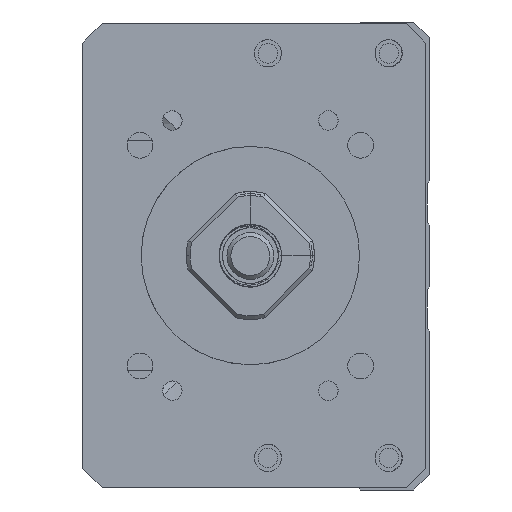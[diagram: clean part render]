
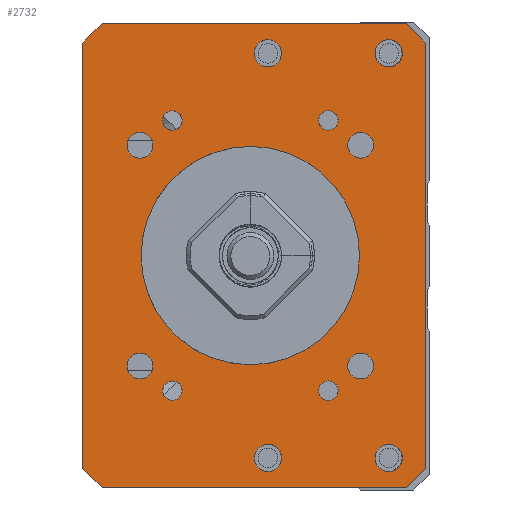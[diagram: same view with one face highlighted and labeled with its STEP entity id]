
A CAD part, left-side view. The second image highlights one B-rep face of the part: STEP entity #2732.
In plain terms, the highlighted planar face has unit normal (-1, 0, 0).
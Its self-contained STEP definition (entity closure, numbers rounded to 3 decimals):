
#1056=LINE('',#14754,#1886);
#1058=LINE('',#14778,#1888);
#1059=LINE('',#14780,#1889);
#1060=LINE('',#14782,#1890);
#1061=LINE('',#14784,#1891);
#1062=LINE('',#14786,#1892);
#1063=LINE('',#14788,#1893);
#1064=LINE('',#14790,#1894);
#1886=VECTOR('',#11793,1.);
#1888=VECTOR('',#11817,1.);
#1889=VECTOR('',#11818,1.);
#1890=VECTOR('',#11819,1.);
#1891=VECTOR('',#11820,1.);
#1892=VECTOR('',#11821,1.);
#1893=VECTOR('',#11822,1.);
#1894=VECTOR('',#11823,1.);
#2732=ADVANCED_FACE('',(#3752,#3753,#3754,#3755,#3756,#3757,#3758,#3759,
#3760,#3761,#3762,#3763,#3764,#3765),#3368,.F.);
#3368=PLANE('',#10748);
#3752=FACE_BOUND('',#4218,.T.);
#3753=FACE_BOUND('',#4219,.T.);
#3754=FACE_BOUND('',#4220,.T.);
#3755=FACE_BOUND('',#4221,.T.);
#3756=FACE_BOUND('',#4222,.T.);
#3757=FACE_BOUND('',#4223,.T.);
#3758=FACE_BOUND('',#4224,.T.);
#3759=FACE_BOUND('',#4225,.T.);
#3760=FACE_BOUND('',#4226,.T.);
#3761=FACE_BOUND('',#4227,.T.);
#3762=FACE_BOUND('',#4228,.T.);
#3763=FACE_BOUND('',#4229,.T.);
#3764=FACE_BOUND('',#4230,.T.);
#3765=FACE_BOUND('',#4231,.T.);
#4218=EDGE_LOOP('',(#5139));
#4219=EDGE_LOOP('',(#5140));
#4220=EDGE_LOOP('',(#5141));
#4221=EDGE_LOOP('',(#5142));
#4222=EDGE_LOOP('',(#5143));
#4223=EDGE_LOOP('',(#5144));
#4224=EDGE_LOOP('',(#5145));
#4225=EDGE_LOOP('',(#5146));
#4226=EDGE_LOOP('',(#5147));
#4227=EDGE_LOOP('',(#5148,#5149,#5150,#5151,#5152,#5153,#5154,#5155));
#4228=EDGE_LOOP('',(#5156));
#4229=EDGE_LOOP('',(#5157));
#4230=EDGE_LOOP('',(#5158));
#4231=EDGE_LOOP('',(#5159));
#5139=ORIENTED_EDGE('',*,*,#8958,.F.);
#5140=ORIENTED_EDGE('',*,*,#8959,.F.);
#5141=ORIENTED_EDGE('',*,*,#8960,.F.);
#5142=ORIENTED_EDGE('',*,*,#8961,.F.);
#5143=ORIENTED_EDGE('',*,*,#8962,.F.);
#5144=ORIENTED_EDGE('',*,*,#8963,.T.);
#5145=ORIENTED_EDGE('',*,*,#8964,.F.);
#5146=ORIENTED_EDGE('',*,*,#8965,.F.);
#5147=ORIENTED_EDGE('',*,*,#8966,.F.);
#5148=ORIENTED_EDGE('',*,*,#8955,.T.);
#5149=ORIENTED_EDGE('',*,*,#8967,.T.);
#5150=ORIENTED_EDGE('',*,*,#8968,.F.);
#5151=ORIENTED_EDGE('',*,*,#8969,.T.);
#5152=ORIENTED_EDGE('',*,*,#8970,.F.);
#5153=ORIENTED_EDGE('',*,*,#8971,.T.);
#5154=ORIENTED_EDGE('',*,*,#8972,.T.);
#5155=ORIENTED_EDGE('',*,*,#8973,.T.);
#5156=ORIENTED_EDGE('',*,*,#8974,.F.);
#5157=ORIENTED_EDGE('',*,*,#8975,.F.);
#5158=ORIENTED_EDGE('',*,*,#8976,.F.);
#5159=ORIENTED_EDGE('',*,*,#8935,.F.);
#7935=VERTEX_POINT('',#14693);
#7955=VERTEX_POINT('',#14753);
#7956=VERTEX_POINT('',#14755);
#7958=VERTEX_POINT('',#14761);
#7959=VERTEX_POINT('',#14763);
#7960=VERTEX_POINT('',#14765);
#7961=VERTEX_POINT('',#14767);
#7962=VERTEX_POINT('',#14769);
#7963=VERTEX_POINT('',#14771);
#7964=VERTEX_POINT('',#14773);
#7965=VERTEX_POINT('',#14775);
#7966=VERTEX_POINT('',#14777);
#7967=VERTEX_POINT('',#14779);
#7968=VERTEX_POINT('',#14781);
#7969=VERTEX_POINT('',#14783);
#7970=VERTEX_POINT('',#14785);
#7971=VERTEX_POINT('',#14787);
#7972=VERTEX_POINT('',#14789);
#7973=VERTEX_POINT('',#14792);
#7974=VERTEX_POINT('',#14794);
#7975=VERTEX_POINT('',#14796);
#8935=EDGE_CURVE('',#7935,#7935,#10345,.T.);
#8955=EDGE_CURVE('',#7956,#7955,#1056,.T.);
#8958=EDGE_CURVE('',#7958,#7958,#10354,.T.);
#8959=EDGE_CURVE('',#7959,#7959,#10355,.T.);
#8960=EDGE_CURVE('',#7960,#7960,#10356,.T.);
#8961=EDGE_CURVE('',#7961,#7961,#10357,.T.);
#8962=EDGE_CURVE('',#7962,#7962,#10358,.T.);
#8963=EDGE_CURVE('',#7963,#7963,#10359,.T.);
#8964=EDGE_CURVE('',#7964,#7964,#10360,.T.);
#8965=EDGE_CURVE('',#7965,#7965,#10361,.T.);
#8966=EDGE_CURVE('',#7966,#7966,#10362,.T.);
#8967=EDGE_CURVE('',#7955,#7967,#1058,.T.);
#8968=EDGE_CURVE('',#7968,#7967,#1059,.T.);
#8969=EDGE_CURVE('',#7968,#7969,#1060,.T.);
#8970=EDGE_CURVE('',#7970,#7969,#1061,.T.);
#8971=EDGE_CURVE('',#7970,#7971,#1062,.T.);
#8972=EDGE_CURVE('',#7971,#7972,#1063,.T.);
#8973=EDGE_CURVE('',#7972,#7956,#1064,.T.);
#8974=EDGE_CURVE('',#7973,#7973,#10363,.T.);
#8975=EDGE_CURVE('',#7974,#7974,#10364,.T.);
#8976=EDGE_CURVE('',#7975,#7975,#10365,.T.);
#10345=CIRCLE('',#10725,14.);
#10354=CIRCLE('',#10736,1.65);
#10355=CIRCLE('',#10737,1.65);
#10356=CIRCLE('',#10738,1.65);
#10357=CIRCLE('',#10739,1.65);
#10358=CIRCLE('',#10740,1.25);
#10359=CIRCLE('',#10741,1.75);
#10360=CIRCLE('',#10742,1.25);
#10361=CIRCLE('',#10743,1.75);
#10362=CIRCLE('',#10744,1.25);
#10363=CIRCLE('',#10745,1.75);
#10364=CIRCLE('',#10746,1.75);
#10365=CIRCLE('',#10747,1.25);
#10725=AXIS2_PLACEMENT_3D('',#14692,#11767,#11768);
#10736=AXIS2_PLACEMENT_3D('',#14760,#11799,#11800);
#10737=AXIS2_PLACEMENT_3D('',#14762,#11801,#11802);
#10738=AXIS2_PLACEMENT_3D('',#14764,#11803,#11804);
#10739=AXIS2_PLACEMENT_3D('',#14766,#11805,#11806);
#10740=AXIS2_PLACEMENT_3D('',#14768,#11807,#11808);
#10741=AXIS2_PLACEMENT_3D('',#14770,#11809,#11810);
#10742=AXIS2_PLACEMENT_3D('',#14772,#11811,#11812);
#10743=AXIS2_PLACEMENT_3D('',#14774,#11813,#11814);
#10744=AXIS2_PLACEMENT_3D('',#14776,#11815,#11816);
#10745=AXIS2_PLACEMENT_3D('',#14791,#11824,#11825);
#10746=AXIS2_PLACEMENT_3D('',#14793,#11826,#11827);
#10747=AXIS2_PLACEMENT_3D('',#14795,#11828,#11829);
#10748=AXIS2_PLACEMENT_3D('',#14797,#11830,#11831);
#11767=DIRECTION('',(-1.,0.,0.));
#11768=DIRECTION('',(0.,1.,0.));
#11793=DIRECTION('',(0.,0.,-1.));
#11799=DIRECTION('',(-1.,0.,0.));
#11800=DIRECTION('',(0.,0.,1.));
#11801=DIRECTION('',(-1.,0.,0.));
#11802=DIRECTION('',(0.,0.,1.));
#11803=DIRECTION('',(-1.,0.,0.));
#11804=DIRECTION('',(0.,0.,1.));
#11805=DIRECTION('',(-1.,0.,0.));
#11806=DIRECTION('',(0.,0.,1.));
#11807=DIRECTION('',(-1.,0.,0.));
#11808=DIRECTION('',(0.,1.,0.));
#11809=DIRECTION('',(1.,0.,0.));
#11810=DIRECTION('',(0.,0.,1.));
#11811=DIRECTION('',(-1.,0.,0.));
#11812=DIRECTION('',(0.,1.,0.));
#11813=DIRECTION('',(-1.,0.,0.));
#11814=DIRECTION('',(0.,0.,1.));
#11815=DIRECTION('',(-1.,0.,0.));
#11816=DIRECTION('',(0.,1.,0.));
#11817=DIRECTION('',(0.,-0.707,-0.707));
#11818=DIRECTION('',(0.,1.,0.));
#11819=DIRECTION('',(0.,-0.707,0.707));
#11820=DIRECTION('',(0.,0.,-1.));
#11821=DIRECTION('',(0.,0.707,0.707));
#11822=DIRECTION('',(0.,1.,0.));
#11823=DIRECTION('',(0.,0.707,-0.707));
#11824=DIRECTION('',(-1.,0.,0.));
#11825=DIRECTION('',(0.,0.,1.));
#11826=DIRECTION('',(-1.,0.,0.));
#11827=DIRECTION('',(0.,0.,1.));
#11828=DIRECTION('',(-1.,0.,0.));
#11829=DIRECTION('',(0.,1.,0.));
#11830=DIRECTION('',(1.,0.,0.));
#11831=DIRECTION('',(0.,-1.,0.));
#14692=CARTESIAN_POINT('',(-211.,0.,-100.));
#14693=CARTESIAN_POINT('',(-211.,14.,-100.));
#14753=CARTESIAN_POINT('',(-211.,21.499,-127.25));
#14754=CARTESIAN_POINT('',(-211.,21.499,-70.25));
#14755=CARTESIAN_POINT('',(-211.,21.499,-72.75));
#14760=CARTESIAN_POINT('',(-211.,14.142,-85.858));
#14761=CARTESIAN_POINT('',(-211.,14.142,-84.208));
#14762=CARTESIAN_POINT('',(-211.,-14.142,-85.858));
#14763=CARTESIAN_POINT('',(-211.,-14.142,-84.208));
#14764=CARTESIAN_POINT('',(-211.,14.142,-114.142));
#14765=CARTESIAN_POINT('',(-211.,14.142,-112.492));
#14766=CARTESIAN_POINT('',(-211.,-14.142,-114.142));
#14767=CARTESIAN_POINT('',(-211.,-14.142,-112.492));
#14768=CARTESIAN_POINT('',(-211.,-10.,-117.321));
#14769=CARTESIAN_POINT('',(-211.,-8.75,-117.321));
#14770=CARTESIAN_POINT('',(-211.,-2.25,-125.936));
#14771=CARTESIAN_POINT('',(-211.,-2.25,-124.186));
#14772=CARTESIAN_POINT('',(-211.,10.,-82.679));
#14773=CARTESIAN_POINT('',(-211.,11.25,-82.679));
#14774=CARTESIAN_POINT('',(-211.,-2.25,-74.064));
#14775=CARTESIAN_POINT('',(-211.,-2.25,-72.314));
#14776=CARTESIAN_POINT('',(-211.,10.,-117.321));
#14777=CARTESIAN_POINT('',(-211.,11.25,-117.321));
#14778=CARTESIAN_POINT('',(-211.,18.999,-129.75));
#14779=CARTESIAN_POINT('',(-211.,18.999,-129.75));
#14780=CARTESIAN_POINT('',(-211.,-22.501,-129.75));
#14781=CARTESIAN_POINT('',(-211.,-20.001,-129.75));
#14782=CARTESIAN_POINT('',(-211.,-22.501,-127.25));
#14783=CARTESIAN_POINT('',(-211.,-22.501,-127.25));
#14784=CARTESIAN_POINT('',(-211.,-22.501,-70.25));
#14785=CARTESIAN_POINT('',(-211.,-22.501,-72.75));
#14786=CARTESIAN_POINT('',(-211.,-22.501,-72.75));
#14787=CARTESIAN_POINT('',(-211.,-20.001,-70.25));
#14788=CARTESIAN_POINT('',(-211.,-22.501,-70.25));
#14789=CARTESIAN_POINT('',(-211.,18.999,-70.25));
#14790=CARTESIAN_POINT('',(-211.,18.999,-70.25));
#14791=CARTESIAN_POINT('',(-211.,-17.75,-74.064));
#14792=CARTESIAN_POINT('',(-211.,-17.75,-72.314));
#14793=CARTESIAN_POINT('',(-211.,-17.75,-125.936));
#14794=CARTESIAN_POINT('',(-211.,-17.75,-124.186));
#14795=CARTESIAN_POINT('',(-211.,-10.,-82.679));
#14796=CARTESIAN_POINT('',(-211.,-8.75,-82.679));
#14797=CARTESIAN_POINT('',(-211.,-22.501,-70.25));
